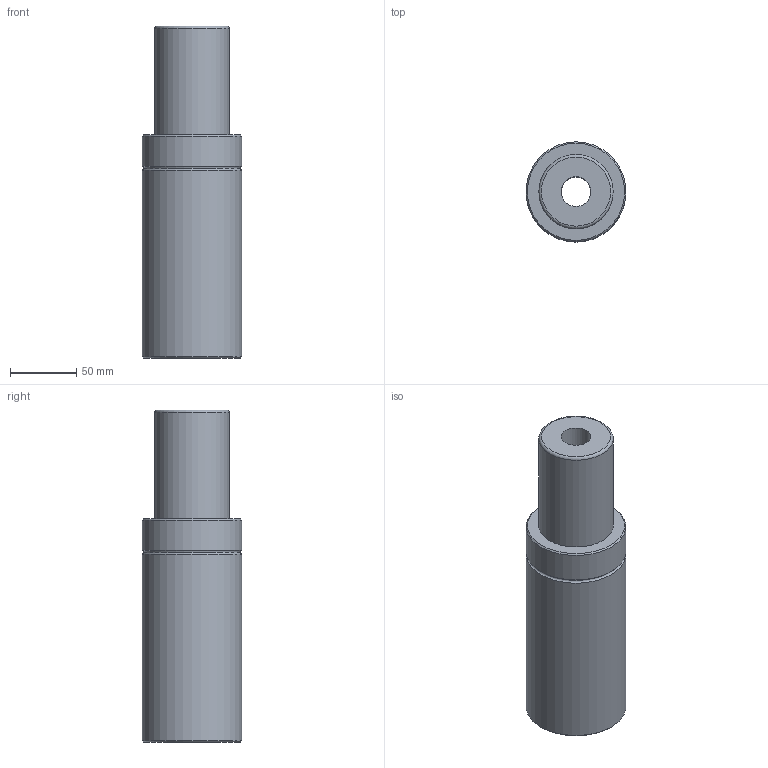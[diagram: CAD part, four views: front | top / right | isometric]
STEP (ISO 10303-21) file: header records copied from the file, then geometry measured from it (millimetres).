
FILE_DESCRIPTION(('FreeCAD Model'),'2;1');
FILE_NAME('Open CASCADE Shape Model','2024-11-14T08:52:02',('Author'),( ''),'Open CASCADE STEP processor 7.6','FreeCAD','Unknown');
FILE_SCHEMA(('AUTOMOTIVE_DESIGN { 1 0 10303 214 1 1 1 1 }'));
Length unit declared in the file: millimetre
Products named in the file (5): TPHC600x50; Part001; Fillet; Part009; Cut001
Assembly tree (4 placements, depth 3):
  TPHC600x50
    Part001
      Fillet
    Part009
      Cut001
Bounding box: 75.2 x 75.2 x 250 mm (x, y, z)
Volume: 846994 mm3; surface area: 84827.9 mm2
Topology: 2 solids, 2 shells, 24 faces, 39 edges, 24 vertices
Faces by surface type: cylinder 10, plane 9, torus 3, cone 2
Full cylindrical faces by diameter (mm): 6 x5, 22.4 x2, 56 x1, 75.2 x2
Entity records: 672 total; most frequent: DIRECTION 124, CARTESIAN_POINT 92, ORIENTED_EDGE 78, AXIS2_PLACEMENT_3D 56, EDGE_CURVE 39, FACE_BOUND 33, EDGE_LOOP 33, CIRCLE 27
